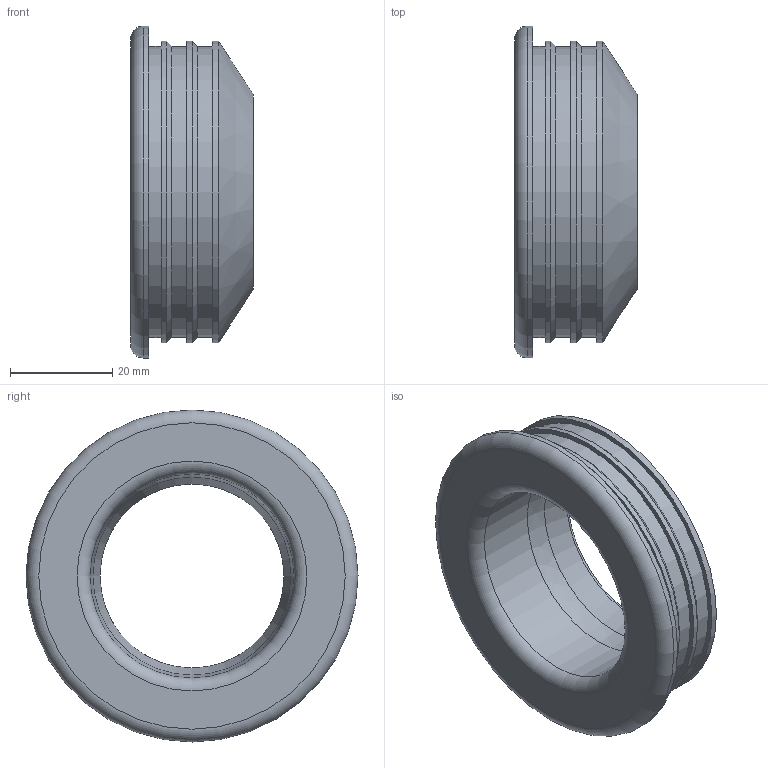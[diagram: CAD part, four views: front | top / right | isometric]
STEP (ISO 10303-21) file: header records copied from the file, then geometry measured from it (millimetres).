
FILE_DESCRIPTION(/* description */ (''),/* implementation_level */ '2;1');
FILE_NAME(/* name */ 'H:\Geberit-Teile\Export\Manschetten ART\stp\153565.stp',/* time_stamp */ '2014-05-12T13:18:49+02:00',/* author */ ('seihe2'),/* organization */ (''),/* preprocessor_version */ 'ST-DEVELOPER v15.2',/* originating_system */ 'Autodesk Inventor 2014',/* authorisation */ '');
FILE_SCHEMA (('AUTOMOTIVE_DESIGN { 1 0 10303 214 3 1 1 }'));
Length unit declared in the file: millimetre
Products named in the file (1): 153565
Bounding box: 24 x 65 x 65 mm (x, y, z)
Volume: 30579.5 mm3; surface area: 11366.3 mm2
Topology: 1 solids, 1 shells, 22 faces, 40 edges, 24 vertices
Faces by surface type: cylinder 8, plane 6, cone 4, torus 3, bspline 1
Full cylindrical faces by diameter (mm): 40 x1, 57 x3, 59 x3, 65 x1
Entity records: 537 total; most frequent: CARTESIAN_POINT 100, DIRECTION 92, ORIENTED_EDGE 50, AXIS2_PLACEMENT_3D 46, EDGE_LOOP 43, FACE_BOUND 25, EDGE_CURVE 25, CIRCLE 24
